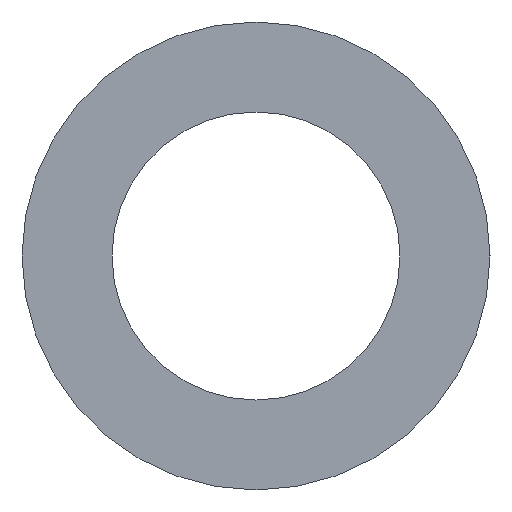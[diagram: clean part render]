
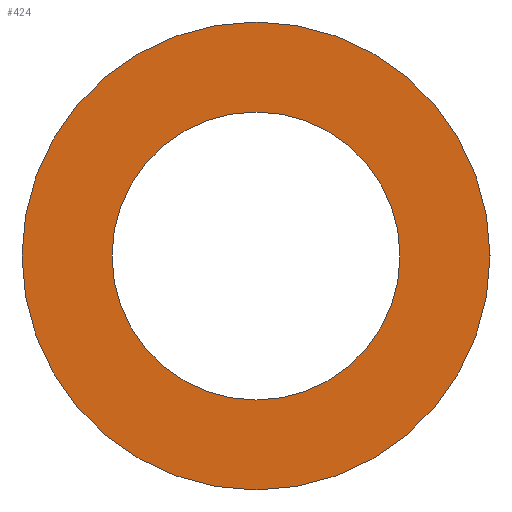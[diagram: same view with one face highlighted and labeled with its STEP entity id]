
A CAD part, left-side view. The second image highlights one B-rep face of the part: STEP entity #424.
In plain terms, the highlighted planar face has unit normal (-1, 0, 0).
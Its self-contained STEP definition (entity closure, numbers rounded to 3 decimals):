
#301 = CYLINDRICAL_SURFACE('',#302,13.);
#302 = AXIS2_PLACEMENT_3D('',#303,#304,#305);
#303 = CARTESIAN_POINT('',(36.,0.,0.));
#304 = DIRECTION('',(-1.,-0.,0.));
#305 = DIRECTION('',(-0.,0.,-1.));
#370 = EDGE_CURVE('',#371,#371,#373,.T.);
#371 = VERTEX_POINT('',#372);
#372 = CARTESIAN_POINT('',(0.,0.,-13.));
#373 = SURFACE_CURVE('',#374,(#379,#386),.PCURVE_S1.);
#374 = CIRCLE('',#375,13.);
#375 = AXIS2_PLACEMENT_3D('',#376,#377,#378);
#376 = CARTESIAN_POINT('',(0.,0.,0.));
#377 = DIRECTION('',(1.,0.,-0.));
#378 = DIRECTION('',(-0.,0.,-1.));
#379 = PCURVE('',#301,#380);
#380 = DEFINITIONAL_REPRESENTATION('',(#381),#385);
#381 = LINE('',#382,#383);
#382 = CARTESIAN_POINT('',(6.283,36.));
#383 = VECTOR('',#384,1.);
#384 = DIRECTION('',(-1.,0.));
#385 = ( GEOMETRIC_REPRESENTATION_CONTEXT(2) 
PARAMETRIC_REPRESENTATION_CONTEXT() REPRESENTATION_CONTEXT('2D SPACE',''
  ) );
#386 = PCURVE('',#387,#392);
#387 = PLANE('',#388);
#388 = AXIS2_PLACEMENT_3D('',#389,#390,#391);
#389 = CARTESIAN_POINT('',(0.,13.,0.));
#390 = DIRECTION('',(-1.,0.,0.));
#391 = DIRECTION('',(0.,0.,1.));
#392 = DEFINITIONAL_REPRESENTATION('',(#393),#401);
#393 = ( BOUNDED_CURVE() B_SPLINE_CURVE(2,(#394,#395,#396,#397,#398,#399
,#400),.UNSPECIFIED.,.T.,.F.) B_SPLINE_CURVE_WITH_KNOTS((1,2,2,2,2,1),(
    -2.094,0.,2.094,4.189,6.283,
8.378),.UNSPECIFIED.) CURVE() GEOMETRIC_REPRESENTATION_ITEM() 
RATIONAL_B_SPLINE_CURVE((1.,0.5,1.,0.5,1.,0.5,1.)) REPRESENTATION_ITEM(
  '') );
#394 = CARTESIAN_POINT('',(-13.,-13.));
#395 = CARTESIAN_POINT('',(-13.,9.517));
#396 = CARTESIAN_POINT('',(6.5,-1.742));
#397 = CARTESIAN_POINT('',(26.,-13.));
#398 = CARTESIAN_POINT('',(6.5,-24.258));
#399 = CARTESIAN_POINT('',(-13.,-35.517));
#400 = CARTESIAN_POINT('',(-13.,-13.));
#401 = ( GEOMETRIC_REPRESENTATION_CONTEXT(2) 
PARAMETRIC_REPRESENTATION_CONTEXT() REPRESENTATION_CONTEXT('2D SPACE',''
  ) );
#424 = ADVANCED_FACE('',(#425,#460),#387,.T.);
#425 = FACE_BOUND('',#426,.T.);
#426 = EDGE_LOOP('',(#427));
#427 = ORIENTED_EDGE('',*,*,#428,.T.);
#428 = EDGE_CURVE('',#429,#429,#431,.T.);
#429 = VERTEX_POINT('',#430);
#430 = CARTESIAN_POINT('',(0.,0.,-8.));
#431 = SURFACE_CURVE('',#432,(#437,#448),.PCURVE_S1.);
#432 = CIRCLE('',#433,8.);
#433 = AXIS2_PLACEMENT_3D('',#434,#435,#436);
#434 = CARTESIAN_POINT('',(0.,0.,0.));
#435 = DIRECTION('',(1.,0.,-0.));
#436 = DIRECTION('',(-0.,0.,-1.));
#437 = PCURVE('',#387,#438);
#438 = DEFINITIONAL_REPRESENTATION('',(#439),#447);
#439 = ( BOUNDED_CURVE() B_SPLINE_CURVE(2,(#440,#441,#442,#443,#444,#445
,#446),.UNSPECIFIED.,.T.,.F.) B_SPLINE_CURVE_WITH_KNOTS((1,2,2,2,2,1),(
    -2.094,0.,2.094,4.189,6.283,
8.378),.UNSPECIFIED.) CURVE() GEOMETRIC_REPRESENTATION_ITEM() 
RATIONAL_B_SPLINE_CURVE((1.,0.5,1.,0.5,1.,0.5,1.)) REPRESENTATION_ITEM(
  '') );
#440 = CARTESIAN_POINT('',(-8.,-13.));
#441 = CARTESIAN_POINT('',(-8.,0.856));
#442 = CARTESIAN_POINT('',(4.,-6.072));
#443 = CARTESIAN_POINT('',(16.,-13.));
#444 = CARTESIAN_POINT('',(4.,-19.928));
#445 = CARTESIAN_POINT('',(-8.,-26.856));
#446 = CARTESIAN_POINT('',(-8.,-13.));
#447 = ( GEOMETRIC_REPRESENTATION_CONTEXT(2) 
PARAMETRIC_REPRESENTATION_CONTEXT() REPRESENTATION_CONTEXT('2D SPACE',''
  ) );
#448 = PCURVE('',#449,#454);
#449 = CYLINDRICAL_SURFACE('',#450,8.);
#450 = AXIS2_PLACEMENT_3D('',#451,#452,#453);
#451 = CARTESIAN_POINT('',(36.,0.,0.));
#452 = DIRECTION('',(-1.,-0.,0.));
#453 = DIRECTION('',(-0.,0.,-1.));
#454 = DEFINITIONAL_REPRESENTATION('',(#455),#459);
#455 = LINE('',#456,#457);
#456 = CARTESIAN_POINT('',(6.283,36.));
#457 = VECTOR('',#458,1.);
#458 = DIRECTION('',(-1.,0.));
#459 = ( GEOMETRIC_REPRESENTATION_CONTEXT(2) 
PARAMETRIC_REPRESENTATION_CONTEXT() REPRESENTATION_CONTEXT('2D SPACE',''
  ) );
#460 = FACE_BOUND('',#461,.T.);
#461 = EDGE_LOOP('',(#462));
#462 = ORIENTED_EDGE('',*,*,#370,.F.);
